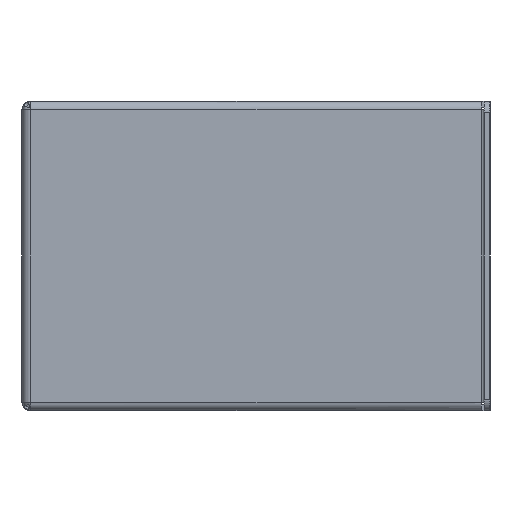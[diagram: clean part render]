
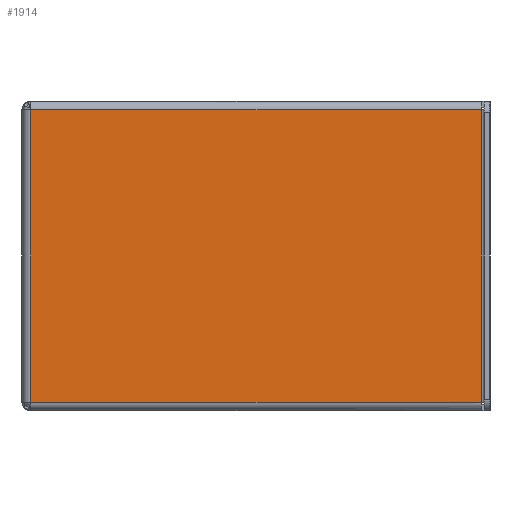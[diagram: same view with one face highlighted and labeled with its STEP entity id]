
A CAD part, left-side view. The second image highlights one B-rep face of the part: STEP entity #1914.
In plain terms, the highlighted planar face has unit normal (-1, 0, 0).
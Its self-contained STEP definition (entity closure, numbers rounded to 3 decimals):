
#308=ORIENTED_EDGE('',*,*,#844,.F.);
#309=ORIENTED_EDGE('',*,*,#845,.T.);
#310=ORIENTED_EDGE('',*,*,#834,.F.);
#311=ORIENTED_EDGE('',*,*,#822,.T.);
#822=EDGE_CURVE('',#1080,#1061,#1216,.T.);
#834=EDGE_CURVE('',#1080,#1088,#1221,.T.);
#844=EDGE_CURVE('',#1064,#1061,#1228,.T.);
#845=EDGE_CURVE('',#1064,#1088,#1229,.T.);
#1061=VERTEX_POINT('',#2934);
#1064=VERTEX_POINT('',#2943);
#1080=VERTEX_POINT('',#2986);
#1088=VERTEX_POINT('',#3018);
#1216=LINE('',#2985,#1412);
#1221=LINE('',#3017,#1417);
#1228=LINE('',#3035,#1424);
#1229=LINE('',#3036,#1425);
#1412=VECTOR('',#2395,1000.);
#1417=VECTOR('',#2418,1000.);
#1424=VECTOR('',#2439,1000.);
#1425=VECTOR('',#2440,1000.);
#1564=EDGE_LOOP('',(#308,#309,#310,#311));
#1706=FACE_BOUND('',#1564,.T.);
#1832=PLANE('',#2097);
#1914=ADVANCED_FACE('',(#1706),#1832,.T.);
#2097=AXIS2_PLACEMENT_3D('',#3034,#2437,#2438);
#2395=DIRECTION('',(0.,-1.,0.));
#2418=DIRECTION('',(0.,0.,1.));
#2437=DIRECTION('',(-1.,0.,0.));
#2438=DIRECTION('',(0.,0.,1.));
#2439=DIRECTION('',(0.,0.,-1.));
#2440=DIRECTION('',(0.,1.,0.));
#2934=CARTESIAN_POINT('',(-215.9,-130.912,-41.605));
#2943=CARTESIAN_POINT('',(-215.9,-130.912,41.605));
#2985=CARTESIAN_POINT('',(-215.9,-2.438,-41.605));
#2986=CARTESIAN_POINT('',(-215.9,-2.438,-41.605));
#3017=CARTESIAN_POINT('',(-215.9,-2.438,-44.044));
#3018=CARTESIAN_POINT('',(-215.9,-2.438,41.605));
#3034=CARTESIAN_POINT('',(-215.9,0.,-44.044));
#3035=CARTESIAN_POINT('',(-215.9,-130.912,41.605));
#3036=CARTESIAN_POINT('',(-215.9,-131.724,41.605));
